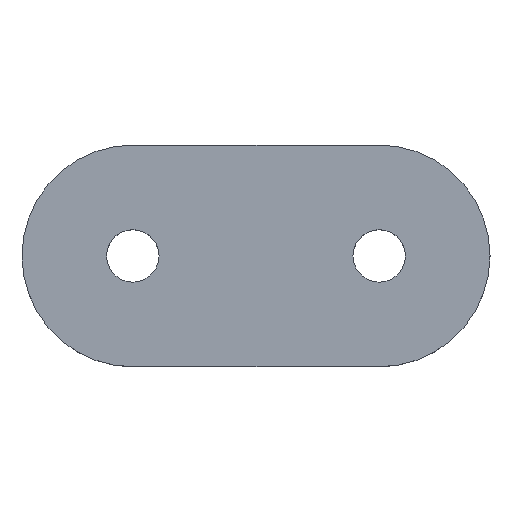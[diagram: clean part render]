
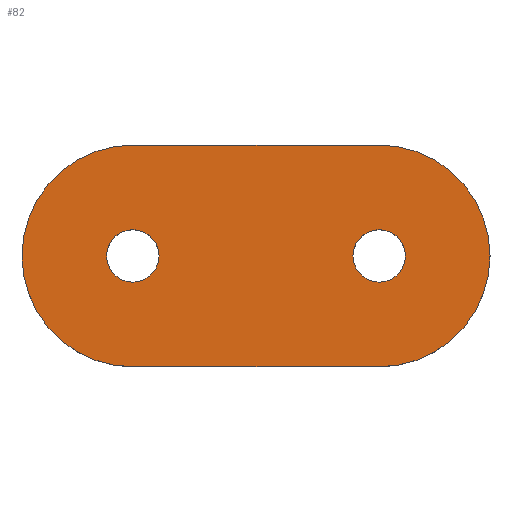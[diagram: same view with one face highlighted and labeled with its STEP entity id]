
A CAD part, top view. The second image highlights one B-rep face of the part: STEP entity #82.
In plain terms, the highlighted planar face has unit normal (0, 0, 1).
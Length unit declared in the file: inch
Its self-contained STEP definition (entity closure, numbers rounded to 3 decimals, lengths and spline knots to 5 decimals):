
#2 = LINE ( 'NONE', #257, #184 ) ;
#3 = CIRCLE ( 'NONE', #207, 0.5625 ) ;
#5 = CIRCLE ( 'NONE', #202, 0.133 ) ;
#14 = CIRCLE ( 'NONE', #209, 0.5625 ) ;
#17 = LINE ( 'NONE', #265, #55 ) ;
#21 = VERTEX_POINT ( 'NONE', #361 ) ;
#23 = ORIENTED_EDGE ( 'NONE', *, *, #302, .F. ) ;
#27 = ORIENTED_EDGE ( 'NONE', *, *, #262, .T. ) ;
#33 = FACE_OUTER_BOUND ( 'NONE', #365, .T. ) ;
#35 = ORIENTED_EDGE ( 'NONE', *, *, #267, .T. ) ;
#52 = CIRCLE ( 'NONE', #205, 0.133 ) ;
#55 = VECTOR ( 'NONE', #290, 39.37008 ) ;
#62 = ORIENTED_EDGE ( 'NONE', *, *, #282, .F. ) ;
#65 = FACE_BOUND ( 'NONE', #70, .T. ) ;
#67 = EDGE_LOOP ( 'NONE', ( #275, #62 ) ) ;
#70 = EDGE_LOOP ( 'NONE', ( #397, #23 ) ) ;
#82 = ADVANCED_FACE ( 'NONE', ( #65, #203, #33 ), #323, .T. ) ;
#93 = VERTEX_POINT ( 'NONE', #293 ) ;
#111 = VERTEX_POINT ( 'NONE', #300 ) ;
#121 = CARTESIAN_POINT ( 'NONE',  ( -0.758, 0., 0.18 ) ) ;
#131 = CARTESIAN_POINT ( 'NONE',  ( 0.492, 0., 0.18 ) ) ;
#141 = CARTESIAN_POINT ( 'NONE',  ( -0.625, -0.5625, 0.18 ) ) ;
#145 = AXIS2_PLACEMENT_3D ( 'NONE', #188, #187, #186 ) ;
#148 = CARTESIAN_POINT ( 'NONE',  ( -0.492, 0., 0.18 ) ) ;
#154 = CARTESIAN_POINT ( 'NONE',  ( -0.625, 0.5625, 0.18 ) ) ;
#160 = CARTESIAN_POINT ( 'NONE',  ( 0.758, 0., 0.18 ) ) ;
#161 = CIRCLE ( 'NONE', #145, 0.133 ) ;
#169 = CIRCLE ( 'NONE', #197, 0.133 ) ;
#176 = CIRCLE ( 'NONE', #198, 0.5625 ) ;
#184 = VECTOR ( 'NONE', #271, 39.37008 ) ;
#186 = DIRECTION ( 'NONE',  ( 1., 0., 0. ) ) ;
#187 = DIRECTION ( 'NONE',  ( 0., 0., 1. ) ) ;
#188 = CARTESIAN_POINT ( 'NONE',  ( 0.625, 0., 0.18 ) ) ;
#197 = AXIS2_PLACEMENT_3D ( 'NONE', #211, #210, #208 ) ;
#198 = AXIS2_PLACEMENT_3D ( 'NONE', #221, #219, #218 ) ;
#202 = AXIS2_PLACEMENT_3D ( 'NONE', #236, #234, #233 ) ;
#203 = FACE_BOUND ( 'NONE', #67, .T. ) ;
#205 = AXIS2_PLACEMENT_3D ( 'NONE', #242, #240, #239 ) ;
#207 = AXIS2_PLACEMENT_3D ( 'NONE', #246, #245, #243 ) ;
#208 = DIRECTION ( 'NONE',  ( 1., 0., 0. ) ) ;
#209 = AXIS2_PLACEMENT_3D ( 'NONE', #252, #251, #248 ) ;
#210 = DIRECTION ( 'NONE',  ( 0., 0., 1. ) ) ;
#211 = CARTESIAN_POINT ( 'NONE',  ( -0.625, 0., 0.18 ) ) ;
#218 = DIRECTION ( 'NONE',  ( 1., 0., 0. ) ) ;
#219 = DIRECTION ( 'NONE',  ( 0., 0., 1. ) ) ;
#221 = CARTESIAN_POINT ( 'NONE',  ( -0.625, 0., 0.18 ) ) ;
#233 = DIRECTION ( 'NONE',  ( 1., 0., 0. ) ) ;
#234 = DIRECTION ( 'NONE',  ( 0., 0., 1. ) ) ;
#236 = CARTESIAN_POINT ( 'NONE',  ( 0.625, 0., 0.18 ) ) ;
#239 = DIRECTION ( 'NONE',  ( 1., 0., 0. ) ) ;
#240 = DIRECTION ( 'NONE',  ( 0., 0., 1. ) ) ;
#241 = AXIS2_PLACEMENT_3D ( 'NONE', #325, #331, #322 ) ;
#242 = CARTESIAN_POINT ( 'NONE',  ( -0.625, 0., 0.18 ) ) ;
#243 = DIRECTION ( 'NONE',  ( 1., 0., 0. ) ) ;
#245 = DIRECTION ( 'NONE',  ( 0., 0., 1. ) ) ;
#246 = CARTESIAN_POINT ( 'NONE',  ( -0.625, 0., 0.18 ) ) ;
#248 = DIRECTION ( 'NONE',  ( 1., 0., 0. ) ) ;
#251 = DIRECTION ( 'NONE',  ( 0., 0., 1. ) ) ;
#252 = CARTESIAN_POINT ( 'NONE',  ( 0.625, 0., 0.18 ) ) ;
#257 = CARTESIAN_POINT ( 'NONE',  ( -0.625, -0.5625, 0.18 ) ) ;
#262 = EDGE_CURVE ( 'NONE', #21, #371, #17, .T. ) ;
#263 = EDGE_CURVE ( 'NONE', #111, #21, #14, .T. ) ;
#264 = EDGE_CURVE ( 'NONE', #358, #111, #2, .T. ) ;
#265 = CARTESIAN_POINT ( 'NONE',  ( 0.625, 0.5625, 0.18 ) ) ;
#267 = EDGE_CURVE ( 'NONE', #371, #93, #3, .T. ) ;
#268 = EDGE_CURVE ( 'NONE', #364, #382, #52, .T. ) ;
#270 = EDGE_CURVE ( 'NONE', #345, #367, #5, .T. ) ;
#271 = DIRECTION ( 'NONE',  ( 1., 0., 0. ) ) ;
#275 = ORIENTED_EDGE ( 'NONE', *, *, #268, .F. ) ;
#277 = EDGE_CURVE ( 'NONE', #93, #358, #176, .T. ) ;
#282 = EDGE_CURVE ( 'NONE', #382, #364, #169, .T. ) ;
#290 = DIRECTION ( 'NONE',  ( -1., 0., 0. ) ) ;
#292 = ORIENTED_EDGE ( 'NONE', *, *, #277, .T. ) ;
#293 = CARTESIAN_POINT ( 'NONE',  ( -1.1875, 0., 0.18 ) ) ;
#300 = CARTESIAN_POINT ( 'NONE',  ( 0.625, -0.5625, 0.18 ) ) ;
#302 = EDGE_CURVE ( 'NONE', #367, #345, #161, .T. ) ;
#322 = DIRECTION ( 'NONE',  ( 1., 0., 0. ) ) ;
#323 = PLANE ( 'NONE',  #241 ) ;
#325 = CARTESIAN_POINT ( 'NONE',  ( -0.625, 0., 0.18 ) ) ;
#331 = DIRECTION ( 'NONE',  ( 0., 0., 1. ) ) ;
#332 = ORIENTED_EDGE ( 'NONE', *, *, #263, .T. ) ;
#334 = ORIENTED_EDGE ( 'NONE', *, *, #264, .T. ) ;
#345 = VERTEX_POINT ( 'NONE', #160 ) ;
#358 = VERTEX_POINT ( 'NONE', #141 ) ;
#361 = CARTESIAN_POINT ( 'NONE',  ( 0.625, 0.5625, 0.18 ) ) ;
#364 = VERTEX_POINT ( 'NONE', #148 ) ;
#365 = EDGE_LOOP ( 'NONE', ( #35, #292, #334, #332, #27 ) ) ;
#367 = VERTEX_POINT ( 'NONE', #131 ) ;
#371 = VERTEX_POINT ( 'NONE', #154 ) ;
#382 = VERTEX_POINT ( 'NONE', #121 ) ;
#397 = ORIENTED_EDGE ( 'NONE', *, *, #270, .F. ) ;
